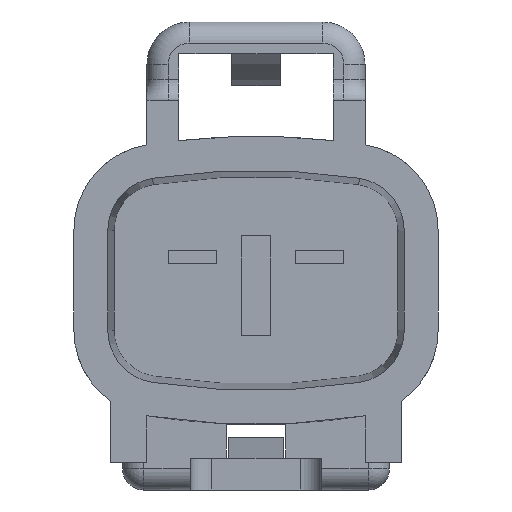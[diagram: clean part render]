
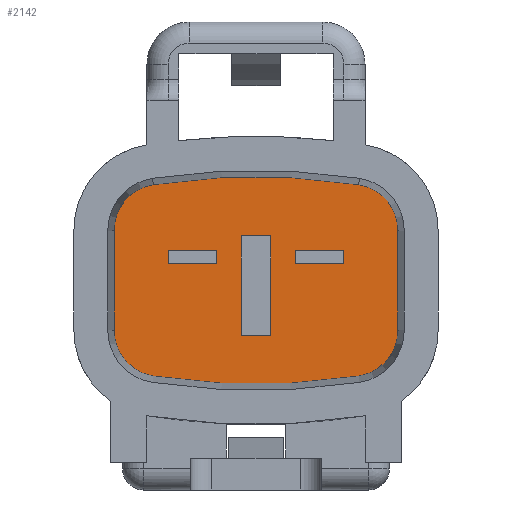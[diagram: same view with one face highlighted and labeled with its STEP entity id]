
A CAD part, left-side view. The second image highlights one B-rep face of the part: STEP entity #2142.
In plain terms, the highlighted planar face has unit normal (-1, 0, 0).
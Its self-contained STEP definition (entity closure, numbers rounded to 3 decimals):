
#1922=CARTESIAN_POINT('Vertex',(0.,-1.841,3.422)) ;
#1929=CARTESIAN_POINT('Vertex',(0.,7.841,3.422)) ;
#1932=CARTESIAN_POINT('Axis2P3D Location',(0.,3.,-27.465)) ;
#1953=CARTESIAN_POINT('Vertex',(0.,-3.7,1.249)) ;
#1956=CARTESIAN_POINT('Axis2P3D Location',(0.,-1.5,1.249)) ;
#1977=CARTESIAN_POINT('Vertex',(0.,9.7,1.249)) ;
#1980=CARTESIAN_POINT('Axis2P3D Location',(0.,7.5,1.249)) ;
#1992=CARTESIAN_POINT('Axis2P3D Location',(0.,0.,0.)) ;
#1997=CARTESIAN_POINT('Line Origine',(0.,9.7,-1.1)) ;
#2001=CARTESIAN_POINT('Vertex',(0.,9.7,-3.449)) ;
#2004=CARTESIAN_POINT('Axis2P3D Location',(0.,7.5,-3.449)) ;
#2008=CARTESIAN_POINT('Vertex',(0.,7.841,-5.622)) ;
#2011=CARTESIAN_POINT('Axis2P3D Location',(0.,3.,25.265)) ;
#2015=CARTESIAN_POINT('Vertex',(0.,-1.841,-5.622)) ;
#2018=CARTESIAN_POINT('Axis2P3D Location',(0.,-1.5,-3.449)) ;
#2022=CARTESIAN_POINT('Vertex',(0.,-3.7,-3.449)) ;
#2025=CARTESIAN_POINT('Line Origine',(0.,-3.7,-1.1)) ;
#2040=CARTESIAN_POINT('Line Origine',(0.,2.3,-1.35)) ;
#2044=CARTESIAN_POINT('Vertex',(0.,2.3,-3.7)) ;
#2046=CARTESIAN_POINT('Vertex',(0.,2.3,1.)) ;
#2049=CARTESIAN_POINT('Line Origine',(0.,3.,-3.7)) ;
#2053=CARTESIAN_POINT('Vertex',(0.,3.7,-3.7)) ;
#2056=CARTESIAN_POINT('Line Origine',(0.,3.7,-1.35)) ;
#2060=CARTESIAN_POINT('Vertex',(0.,3.7,1.)) ;
#2063=CARTESIAN_POINT('Line Origine',(0.,3.,1.)) ;
#2074=CARTESIAN_POINT('Line Origine',(0.,-1.15,0.)) ;
#2078=CARTESIAN_POINT('Vertex',(0.,-1.15,-0.32)) ;
#2080=CARTESIAN_POINT('Vertex',(0.,-1.15,0.32)) ;
#2083=CARTESIAN_POINT('Line Origine',(0.,0.,-0.32)) ;
#2087=CARTESIAN_POINT('Vertex',(0.,1.15,-0.32)) ;
#2090=CARTESIAN_POINT('Line Origine',(0.,1.15,0.)) ;
#2094=CARTESIAN_POINT('Vertex',(0.,1.15,0.32)) ;
#2097=CARTESIAN_POINT('Line Origine',(0.,0.,0.32)) ;
#2108=CARTESIAN_POINT('Line Origine',(0.,4.85,0.)) ;
#2112=CARTESIAN_POINT('Vertex',(0.,4.85,-0.32)) ;
#2114=CARTESIAN_POINT('Vertex',(0.,4.85,0.32)) ;
#2117=CARTESIAN_POINT('Line Origine',(0.,6.,-0.32)) ;
#2121=CARTESIAN_POINT('Vertex',(0.,7.15,-0.32)) ;
#2124=CARTESIAN_POINT('Line Origine',(0.,7.15,0.)) ;
#2128=CARTESIAN_POINT('Vertex',(0.,7.15,0.32)) ;
#2131=CARTESIAN_POINT('Line Origine',(0.,6.,0.32)) ;
#1933=DIRECTION('Axis2P3D Direction',(-1.,0.,0.)) ;
#1957=DIRECTION('Axis2P3D Direction',(-1.,0.,0.)) ;
#1981=DIRECTION('Axis2P3D Direction',(-1.,0.,0.)) ;
#1993=DIRECTION('Axis2P3D Direction',(-1.,0.,0.)) ;
#1994=DIRECTION('Axis2P3D XDirection',(-0.,-1.,-0.)) ;
#1998=DIRECTION('Vector Direction',(0.,0.,-1.)) ;
#2005=DIRECTION('Axis2P3D Direction',(-1.,0.,0.)) ;
#2012=DIRECTION('Axis2P3D Direction',(-1.,0.,0.)) ;
#2019=DIRECTION('Axis2P3D Direction',(-1.,0.,0.)) ;
#2026=DIRECTION('Vector Direction',(0.,0.,-1.)) ;
#2041=DIRECTION('Vector Direction',(0.,0.,1.)) ;
#2050=DIRECTION('Vector Direction',(0.,1.,0.)) ;
#2057=DIRECTION('Vector Direction',(0.,0.,-1.)) ;
#2064=DIRECTION('Vector Direction',(0.,-1.,0.)) ;
#2075=DIRECTION('Vector Direction',(0.,0.,1.)) ;
#2084=DIRECTION('Vector Direction',(0.,1.,0.)) ;
#2091=DIRECTION('Vector Direction',(0.,0.,-1.)) ;
#2098=DIRECTION('Vector Direction',(0.,-1.,0.)) ;
#2109=DIRECTION('Vector Direction',(0.,0.,1.)) ;
#2118=DIRECTION('Vector Direction',(0.,1.,0.)) ;
#2125=DIRECTION('Vector Direction',(0.,0.,-1.)) ;
#2132=DIRECTION('Vector Direction',(0.,-1.,0.)) ;
#1934=AXIS2_PLACEMENT_3D('Circle Axis2P3D',#1932,#1933,$) ;
#1958=AXIS2_PLACEMENT_3D('Circle Axis2P3D',#1956,#1957,$) ;
#1982=AXIS2_PLACEMENT_3D('Circle Axis2P3D',#1980,#1981,$) ;
#1995=AXIS2_PLACEMENT_3D('Plane Axis2P3D',#1992,#1993,#1994) ;
#2006=AXIS2_PLACEMENT_3D('Circle Axis2P3D',#2004,#2005,$) ;
#2013=AXIS2_PLACEMENT_3D('Circle Axis2P3D',#2011,#2012,$) ;
#2020=AXIS2_PLACEMENT_3D('Circle Axis2P3D',#2018,#2019,$) ;
#2031=ORIENTED_EDGE('',*,*,#1936,.T.) ;
#2032=ORIENTED_EDGE('',*,*,#1984,.T.) ;
#2033=ORIENTED_EDGE('',*,*,#2003,.T.) ;
#2034=ORIENTED_EDGE('',*,*,#2010,.T.) ;
#2035=ORIENTED_EDGE('',*,*,#2017,.T.) ;
#2036=ORIENTED_EDGE('',*,*,#2024,.T.) ;
#2037=ORIENTED_EDGE('',*,*,#2029,.T.) ;
#2038=ORIENTED_EDGE('',*,*,#1960,.T.) ;
#2069=ORIENTED_EDGE('',*,*,#2048,.F.) ;
#2070=ORIENTED_EDGE('',*,*,#2055,.F.) ;
#2071=ORIENTED_EDGE('',*,*,#2062,.F.) ;
#2072=ORIENTED_EDGE('',*,*,#2067,.F.) ;
#2103=ORIENTED_EDGE('',*,*,#2082,.F.) ;
#2104=ORIENTED_EDGE('',*,*,#2089,.F.) ;
#2105=ORIENTED_EDGE('',*,*,#2096,.F.) ;
#2106=ORIENTED_EDGE('',*,*,#2101,.F.) ;
#2137=ORIENTED_EDGE('',*,*,#2116,.F.) ;
#2138=ORIENTED_EDGE('',*,*,#2123,.F.) ;
#2139=ORIENTED_EDGE('',*,*,#2130,.F.) ;
#2140=ORIENTED_EDGE('',*,*,#2135,.F.) ;
#2073=FACE_BOUND('',#2068,.T.) ;
#2107=FACE_BOUND('',#2102,.T.) ;
#2141=FACE_BOUND('',#2136,.T.) ;
#1999=VECTOR('Line Direction',#1998,1.) ;
#2027=VECTOR('Line Direction',#2026,1.) ;
#2042=VECTOR('Line Direction',#2041,1.) ;
#2051=VECTOR('Line Direction',#2050,1.) ;
#2058=VECTOR('Line Direction',#2057,1.) ;
#2065=VECTOR('Line Direction',#2064,1.) ;
#2076=VECTOR('Line Direction',#2075,1.) ;
#2085=VECTOR('Line Direction',#2084,1.) ;
#2092=VECTOR('Line Direction',#2091,1.) ;
#2099=VECTOR('Line Direction',#2098,1.) ;
#2110=VECTOR('Line Direction',#2109,1.) ;
#2119=VECTOR('Line Direction',#2118,1.) ;
#2126=VECTOR('Line Direction',#2125,1.) ;
#2133=VECTOR('Line Direction',#2132,1.) ;
#2142=ADVANCED_FACE('\X2\FF8AFF9FFF70FF82\X0\ \X2\FF8EFF9EFF83FF9EFF68FF70\X0\',(#2039,#2073,#2107,#2141),#1996,.T.) ;
#1935=CIRCLE('generated circle',#1934,31.264) ;
#1959=CIRCLE('generated circle',#1958,2.2) ;
#1983=CIRCLE('generated circle',#1982,2.2) ;
#2007=CIRCLE('generated circle',#2006,2.2) ;
#2014=CIRCLE('generated circle',#2013,31.264) ;
#2021=CIRCLE('generated circle',#2020,2.2) ;
#1936=EDGE_CURVE('',#1923,#1930,#1935,.T.) ;
#1960=EDGE_CURVE('',#1954,#1923,#1959,.T.) ;
#1984=EDGE_CURVE('',#1930,#1978,#1983,.T.) ;
#2003=EDGE_CURVE('',#1978,#2002,#2000,.T.) ;
#2010=EDGE_CURVE('',#2002,#2009,#2007,.T.) ;
#2017=EDGE_CURVE('',#2009,#2016,#2014,.T.) ;
#2024=EDGE_CURVE('',#2016,#2023,#2021,.T.) ;
#2029=EDGE_CURVE('',#2023,#1954,#2028,.F.) ;
#2048=EDGE_CURVE('',#2045,#2047,#2043,.T.) ;
#2055=EDGE_CURVE('',#2054,#2045,#2052,.F.) ;
#2062=EDGE_CURVE('',#2061,#2054,#2059,.T.) ;
#2067=EDGE_CURVE('',#2047,#2061,#2066,.F.) ;
#2082=EDGE_CURVE('',#2079,#2081,#2077,.T.) ;
#2089=EDGE_CURVE('',#2088,#2079,#2086,.F.) ;
#2096=EDGE_CURVE('',#2095,#2088,#2093,.T.) ;
#2101=EDGE_CURVE('',#2081,#2095,#2100,.F.) ;
#2116=EDGE_CURVE('',#2113,#2115,#2111,.T.) ;
#2123=EDGE_CURVE('',#2122,#2113,#2120,.F.) ;
#2130=EDGE_CURVE('',#2129,#2122,#2127,.T.) ;
#2135=EDGE_CURVE('',#2115,#2129,#2134,.F.) ;
#2030=EDGE_LOOP('',(#2031,#2032,#2033,#2034,#2035,#2036,#2037,#2038)) ;
#2068=EDGE_LOOP('',(#2069,#2070,#2071,#2072)) ;
#2102=EDGE_LOOP('',(#2103,#2104,#2105,#2106)) ;
#2136=EDGE_LOOP('',(#2137,#2138,#2139,#2140)) ;
#2039=FACE_OUTER_BOUND('',#2030,.T.) ;
#2000=LINE('Line',#1997,#1999) ;
#2028=LINE('Line',#2025,#2027) ;
#2043=LINE('Line',#2040,#2042) ;
#2052=LINE('Line',#2049,#2051) ;
#2059=LINE('Line',#2056,#2058) ;
#2066=LINE('Line',#2063,#2065) ;
#2077=LINE('Line',#2074,#2076) ;
#2086=LINE('Line',#2083,#2085) ;
#2093=LINE('Line',#2090,#2092) ;
#2100=LINE('Line',#2097,#2099) ;
#2111=LINE('Line',#2108,#2110) ;
#2120=LINE('Line',#2117,#2119) ;
#2127=LINE('Line',#2124,#2126) ;
#2134=LINE('Line',#2131,#2133) ;
#1996=PLANE('',#1995) ;
#1923=VERTEX_POINT('',#1922) ;
#1930=VERTEX_POINT('',#1929) ;
#1954=VERTEX_POINT('',#1953) ;
#1978=VERTEX_POINT('',#1977) ;
#2002=VERTEX_POINT('',#2001) ;
#2009=VERTEX_POINT('',#2008) ;
#2016=VERTEX_POINT('',#2015) ;
#2023=VERTEX_POINT('',#2022) ;
#2045=VERTEX_POINT('',#2044) ;
#2047=VERTEX_POINT('',#2046) ;
#2054=VERTEX_POINT('',#2053) ;
#2061=VERTEX_POINT('',#2060) ;
#2079=VERTEX_POINT('',#2078) ;
#2081=VERTEX_POINT('',#2080) ;
#2088=VERTEX_POINT('',#2087) ;
#2095=VERTEX_POINT('',#2094) ;
#2113=VERTEX_POINT('',#2112) ;
#2115=VERTEX_POINT('',#2114) ;
#2122=VERTEX_POINT('',#2121) ;
#2129=VERTEX_POINT('',#2128) ;
